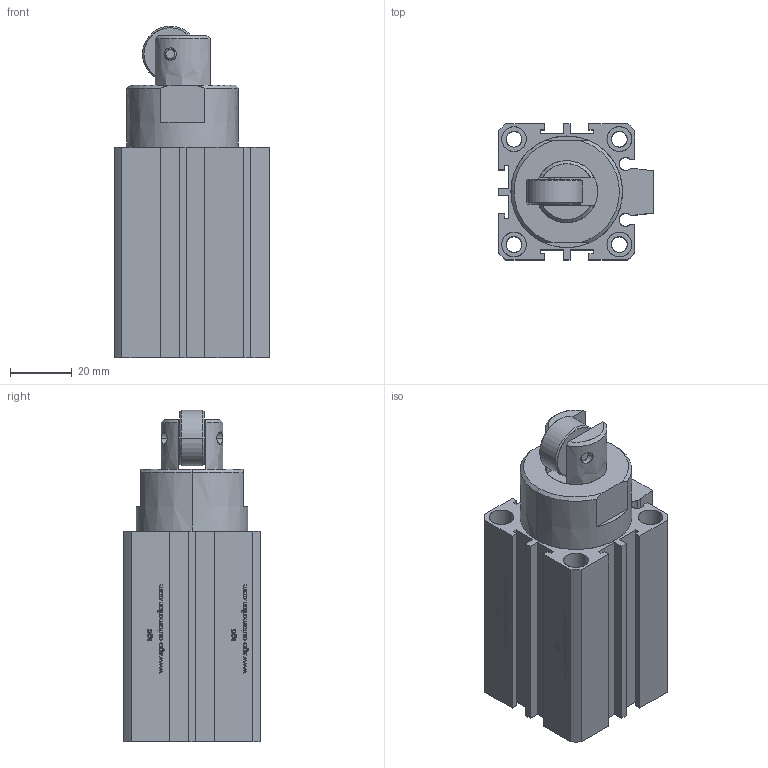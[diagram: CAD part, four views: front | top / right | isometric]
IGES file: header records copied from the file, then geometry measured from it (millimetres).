
Start section: SolidWorks IGES file using analytic representation for surfaces
Global section: file name: C:\Documents and Settings\admin\Bureau\stage de yaya\Plan Philippe Pince\PINCE\VUSB\pièces en 3D\VUSB STEP\ELOC-3DWG\ELOC-32-15-TIGE ENTREE.IGS; native system: SolidWorks 2007; preprocessor: SolidWorks 2007; author: admin; date: 080328.082814; units: millimetre
Bounding box: 50 x 44 x 107 mm (x, y, z)
Surface area: 38518.1 mm2 (no closed solid volume)
Topology: 0 solids, 0 shells, 1184 faces, 14464 edges, 14502 vertices
Faces by surface type: bspline 1121, revolution 63
